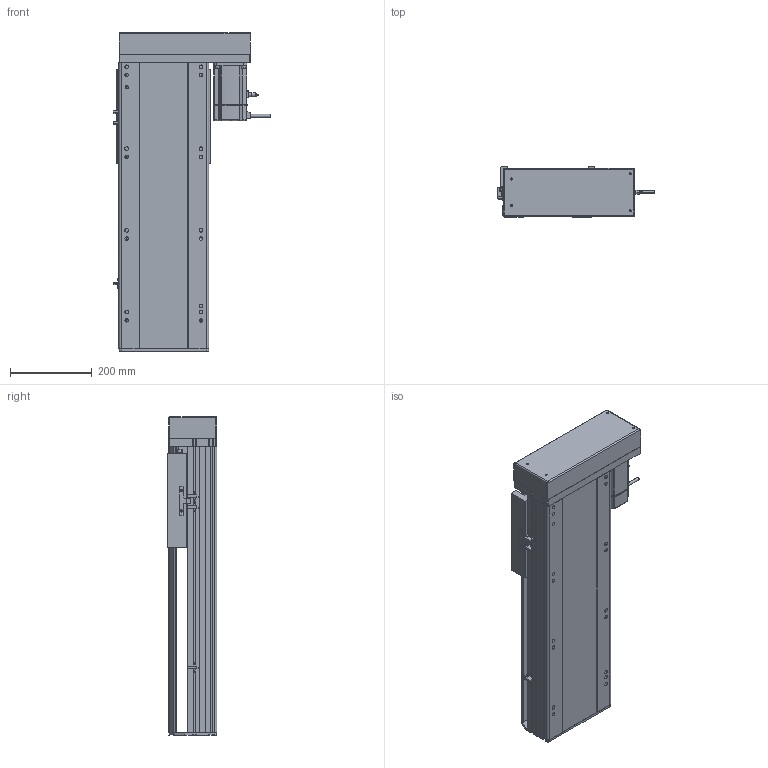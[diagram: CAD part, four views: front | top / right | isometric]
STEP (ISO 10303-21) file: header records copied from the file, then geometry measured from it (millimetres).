
FILE_DESCRIPTION (( 'STEP AP214' ), '1' );
FILE_NAME ('RTH22-XX-400-L-M75-C4.STEP', '2025-10-24T10:56:36', ( 'Microsoft' ), ( 'Microsoft' ), 'SwSTEP 2.0', 'SolidWorks 2018', '' );
FILE_SCHEMA (( 'AUTOMOTIVE_DESIGN' ));
Length unit declared in the file: millimetre
Products named in the file (10): N_RTH22-L-011菁釱^RTH22-XX-XX-L-M75-C4; N_RTH22-GY-001耜裔^RTH22-XX-XX-L-M75-C4; N_RTH22-L-007奻裔^RTH22-XX-XX-L-M75-C4; N_RTH22-L-008-P75萇儂啣^RTH22-XX-XX-L-M75-C4; N_OMRON EE-SX672 传感器^RTH22-XX-XX-L-M75-C4; N_RTH22-L-004-SFS25賑釱^RTH22-XX-XX-L-M75-C4; N_750W萇儂^RTH22-XX-XX-L-M75-C4; N_RTH22-L-018裔赽^RTH22-XX-XX-L-M75-C4; N_RTH22-GY-013外置感应片^RTH22-XX-XX-L-M75-C4; RTH22-XX-400-L-M75-C4
Assembly tree (11 placements, depth 2):
  RTH22-XX-400-L-M75-C4
    N_RTH22-L-011菁釱^RTH22-XX-XX-L-M75-C4
    N_RTH22-GY-001耜裔^RTH22-XX-XX-L-M75-C4
    N_750W萇儂^RTH22-XX-XX-L-M75-C4
    N_RTH22-L-008-P75萇儂啣^RTH22-XX-XX-L-M75-C4
    N_RTH22-L-007奻裔^RTH22-XX-XX-L-M75-C4
    N_RTH22-L-018裔赽^RTH22-XX-XX-L-M75-C4
    N_OMRON EE-SX672 传感器^RTH22-XX-XX-L-M75-C4  x3
    N_RTH22-GY-013外置感应片^RTH22-XX-XX-L-M75-C4
    N_RTH22-L-004-SFS25賑釱^RTH22-XX-XX-L-M75-C4
Bounding box: 384.7 x 122 x 779.7 mm (x, y, z)
Volume: 11894767 mm3; surface area: 1419157.9 mm2
Topology: 11 solids, 11 shells, 1552 faces, 4229 edges, 2731 vertices
Faces by surface type: plane 789, cylinder 434, bspline 279, cone 50
Entity records: 38361 total; most frequent: CARTESIAN_POINT 11818, ORIENTED_EDGE 5450, DIRECTION 5095, EDGE_CURVE 2725, VERTEX_POINT 1767, VECTOR 1711, LINE 1711, AXIS2_PLACEMENT_3D 1692
